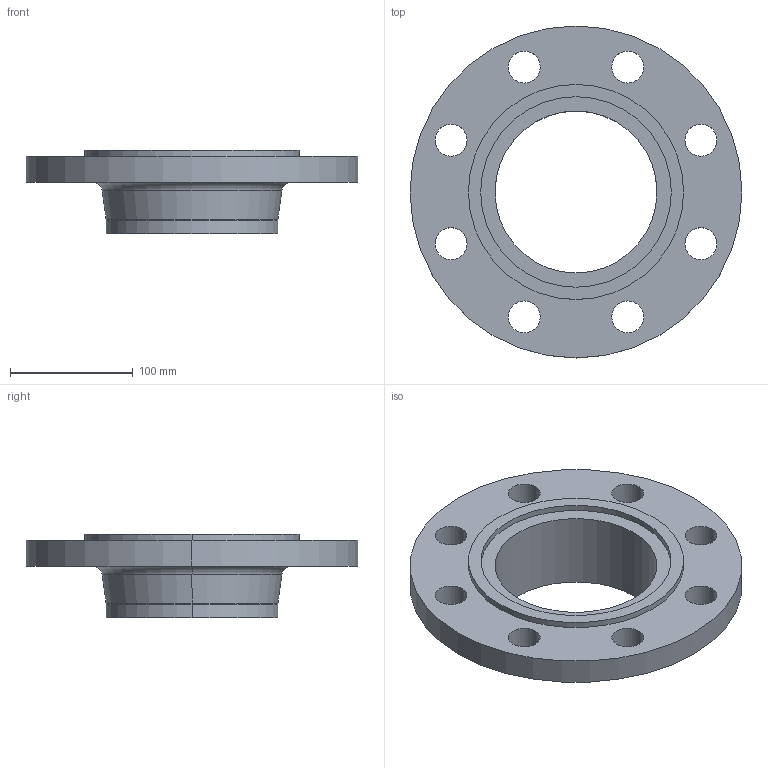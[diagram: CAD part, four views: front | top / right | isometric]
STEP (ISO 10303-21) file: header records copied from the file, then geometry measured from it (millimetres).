
FILE_DESCRIPTION (( 'STEP AP214' ), '1' );
FILE_NAME ('PN40 DN125 Type 11 - Type C Face.STEP', '2019-01-02T19:24:57', ( '' ), ( '' ), 'SwSTEP 2.0', 'SolidWorks 2019', '' );
FILE_SCHEMA (( 'AUTOMOTIVE_DESIGN' ));
Length unit declared in the file: millimetre
Products named in the file (1): PN40 DN125 Type 11 - Type C Face
Bounding box: 270 x 270 x 68 mm (x, y, z)
Volume: 957822.9 mm3; surface area: 157500.9 mm2
Topology: 1 solids, 1 shells, 37 faces, 90 edges, 58 vertices
Faces by surface type: cylinder 26, plane 5, torus 4, cone 2
Entity records: 1188 total; most frequent: DIRECTION 228, CARTESIAN_POINT 186, ORIENTED_EDGE 180, AXIS2_PLACEMENT_3D 100, EDGE_CURVE 90, CIRCLE 62, VERTEX_POINT 58, EDGE_LOOP 58
